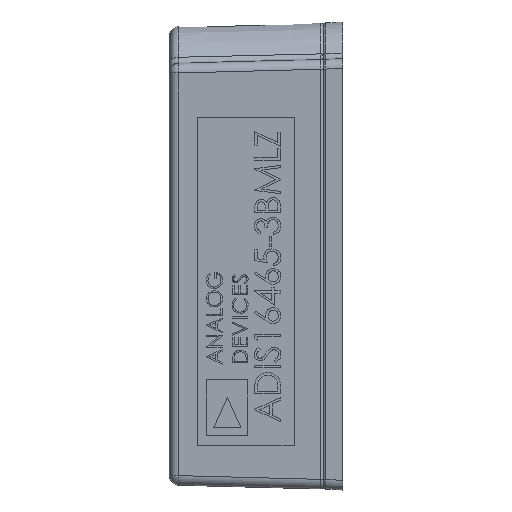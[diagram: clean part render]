
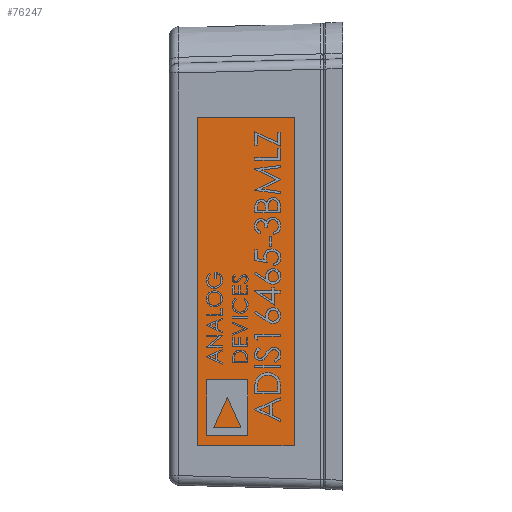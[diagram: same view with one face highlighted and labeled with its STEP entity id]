
A CAD part, left-side view. The second image highlights one B-rep face of the part: STEP entity #76247.
In plain terms, the highlighted planar face has unit normal (-1, 0.026, 0) as drawn and (1, -0.026, 0) by its records, which use the part's own axes.
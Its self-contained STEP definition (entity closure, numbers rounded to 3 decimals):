
#150 = DIRECTION ( 'NONE',  ( 0.026, 1., 0. ) ) ;
#1515 = EDGE_CURVE ( 'NONE', #47866, #37316, #9135, .T. ) ;
#2264 = CARTESIAN_POINT ( 'NONE',  ( 11.079, 1.459, 7.841 ) ) ;
#4806 = DIRECTION ( 'NONE',  ( 0., 0., -1. ) ) ;
#6408 = AXIS2_PLACEMENT_3D ( 'NONE', #18448, #66239, #150 ) ;
#6434 = EDGE_CURVE ( 'NONE', #37316, #59570, #37715, .T. ) ;
#9135 = LINE ( 'NONE', #43541, #37239 ) ;
#12313 = CARTESIAN_POINT ( 'NONE',  ( 11.079, 1.459, -9.206 ) ) ;
#12358 = DIRECTION ( 'NONE',  ( 0., 0., 1. ) ) ;
#16280 = VECTOR ( 'NONE', #4806, 1000. ) ;
#17499 = CARTESIAN_POINT ( 'NONE',  ( 11.079, 1.459, -9.206 ) ) ;
#18447 = LINE ( 'NONE', #2264, #30020 ) ;
#18448 = CARTESIAN_POINT ( 'NONE',  ( 11.033, -0.289, 0. ) ) ;
#19491 = EDGE_LOOP ( 'NONE', ( #32193, #25630, #70233, #32151 ) ) ;
#21107 = CARTESIAN_POINT ( 'NONE',  ( 11.079, 1.459, 7.841 ) ) ;
#23121 = VECTOR ( 'NONE', #12358, 1000. ) ;
#25630 = ORIENTED_EDGE ( 'NONE', *, *, #6434, .T. ) ;
#27055 = DIRECTION ( 'NONE',  ( -0.026, -1., 0. ) ) ;
#30020 = VECTOR ( 'NONE', #27055, 1000. ) ;
#32151 = ORIENTED_EDGE ( 'NONE', *, *, #33286, .T. ) ;
#32193 = ORIENTED_EDGE ( 'NONE', *, *, #1515, .T. ) ;
#32388 = FACE_OUTER_BOUND ( 'NONE', #19491, .T. ) ;
#33286 = EDGE_CURVE ( 'NONE', #37127, #47866, #71463, .T. ) ;
#37127 = VERTEX_POINT ( 'NONE', #21107 ) ;
#37239 = VECTOR ( 'NONE', #43261, 1000. ) ;
#37316 = VERTEX_POINT ( 'NONE', #47038 ) ;
#37715 = LINE ( 'NONE', #42938, #23121 ) ;
#38454 = EDGE_CURVE ( 'NONE', #59570, #37127, #18447, .T. ) ;
#42938 = CARTESIAN_POINT ( 'NONE',  ( 11.21, 6.477, -9.206 ) ) ;
#43261 = DIRECTION ( 'NONE',  ( 0.026, 1., 0. ) ) ;
#43541 = CARTESIAN_POINT ( 'NONE',  ( 11.079, 1.459, -9.206 ) ) ;
#47038 = CARTESIAN_POINT ( 'NONE',  ( 11.21, 6.477, -9.206 ) ) ;
#47866 = VERTEX_POINT ( 'NONE', #12313 ) ;
#59570 = VERTEX_POINT ( 'NONE', #64380 ) ;
#64380 = CARTESIAN_POINT ( 'NONE',  ( 11.21, 6.477, 7.841 ) ) ;
#66239 = DIRECTION ( 'NONE',  ( 1., -0.026, 0. ) ) ;
#70233 = ORIENTED_EDGE ( 'NONE', *, *, #38454, .T. ) ;
#71463 = LINE ( 'NONE', #17499, #16280 ) ;
#74105 = PLANE ( 'NONE',  #6408 ) ;
#76247 = ADVANCED_FACE ( 'NONE', ( #32388 ), #74105, .T. ) ;
